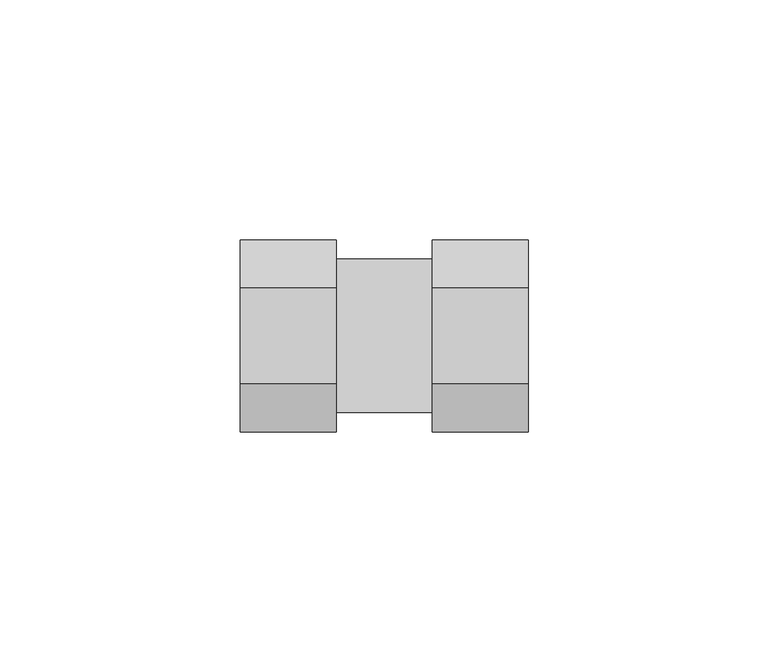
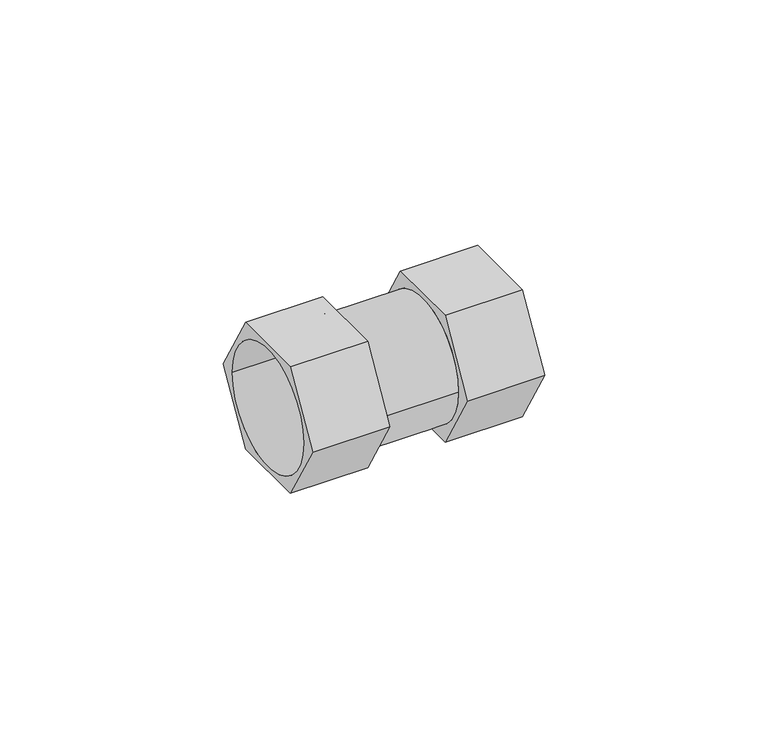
"""IFC4 building model written with IfcOpenShell, lengths in millimetres: pipe fitting geometry, БИР ПЕКС_КМП_Муфта редукционная : Муфта ПЕКС Редукционная."""

from ifc_helpers import new_model, si_unit, point, frame, origin, origin_2d, place, context, project, spatial, polyline, circle_curve, trimmed, segment, composite_curve, outline, extrude, source, transform, mapped, element, save


def pipe_fitting_1a0babc5(model_context):
    return source(origin(), model_context, "Body", "SweptSolid", [
        extrude(outline(polyline([(-10.0, -17.3205081), (-20.0, 0.0), (-10.0, 17.3205081), (10.0, 17.3205081), (20.0, 0.0), (10.0, -17.3205081), (-10.0, -17.3205081)]), holes=[composite_curve([segment(trimmed(circle_curve(origin_2d(), 16.0), [point((-16.0, 0.0))], [point((16.0, 0.0))], True, "CARTESIAN"), True, "CONTINUOUS"), segment(trimmed(circle_curve(origin_2d(), 16.0), [point((16.0, 0.0))], [point((-16.0, 0.0))], True, "CARTESIAN"), True, "CONTINUOUS")], self_intersect=False)]), frame((10.0, 0.0, 0.0), z_axis=(1.0, 0.0, 0.0), x_axis=(0.0, 1.0, 0.0)), (0.0, 0.0, 1.0), 20.0),
        extrude(outline(polyline([(-10.0, -17.3205081), (-20.0, 0.0), (-10.0, 17.3205081), (10.0, 17.3205081), (20.0, 0.0), (10.0, -17.3205081), (-10.0, -17.3205081)]), holes=[composite_curve([segment(trimmed(circle_curve(origin_2d(), 16.0), [point((-16.0, 0.0))], [point((16.0, 0.0))], True, "CARTESIAN"), True, "CONTINUOUS"), segment(trimmed(circle_curve(origin_2d(), 16.0), [point((16.0, 0.0))], [point((-16.0, 0.0))], True, "CARTESIAN"), True, "CONTINUOUS")], self_intersect=False)]), frame((-30.0, 0.0, 0.0), z_axis=(1.0, 0.0, 0.0), x_axis=(0.0, 1.0, 0.0)), (0.0, 0.0, 1.0), 20.0),
        extrude(outline(composite_curve([segment(trimmed(circle_curve(origin_2d(), 16.0), [point((-16.0, 0.0))], [point((16.0, 0.0))], False, "CARTESIAN"), True, "CONTINUOUS"), segment(trimmed(circle_curve(origin_2d(), 16.0), [point((16.0, 0.0))], [point((-16.0, 0.0))], False, "CARTESIAN"), True, "CONTINUOUS")], self_intersect=False)), frame((-10.0, 0.0, 0.0), z_axis=(1.0, 0.0, 0.0), x_axis=(0.0, 1.0, 0.0)), (0.0, 0.0, 1.0), 20.0),
    ])


if __name__ == "__main__":
    model = new_model("IFC4")
    model_context = context("Model", 3, world=origin())
    ifc_project = project(units=[si_unit("LENGTHUNIT", "METRE", prefix="MILLI")], contexts=[model_context])
    site = spatial("IfcSite", under=ifc_project)
    building = spatial("IfcBuilding", under=site)
    placement = place(None, origin())
    pipe_fitting_shape = pipe_fitting_1a0babc5(model_context)
    element("IfcPipeFitting", 1, ObjectType="БИР ПЕКС_КМП_Муфта редукционная : Муфта ПЕКС Редукционная", at=placement, inside=building, context=model_context, shape_type="MappedRepresentation", body=[
        mapped(pipe_fitting_shape, transform((0.0, 0.0, 0.0), x_axis=(1.0, 0.0, 0.0), y_axis=(0.0, 1.0, 0.0), z_axis=(0.0, 0.0, 1.0))),
    ])
    save(model, "model.ifc")
